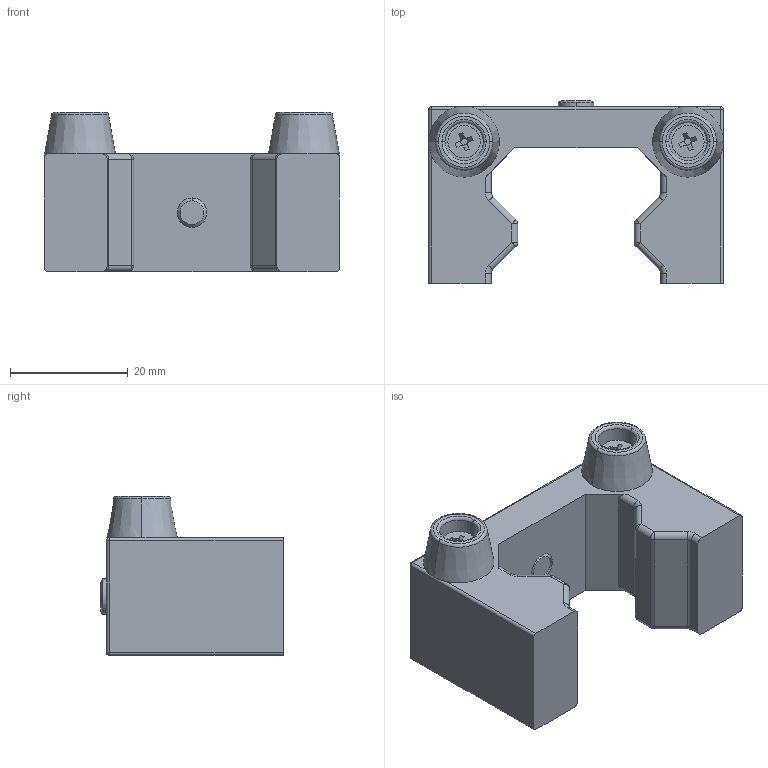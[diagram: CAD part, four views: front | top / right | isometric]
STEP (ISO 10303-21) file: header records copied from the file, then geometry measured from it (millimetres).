
FILE_DESCRIPTION (( 'STEP AP214' ), '1' );
FILE_NAME ('2.9029 HG30.STEP', '2025-09-23T07:18:25', ( '' ), ( '' ), 'SwSTEP 2.0', 'SolidWorks 2025', '' );
FILE_SCHEMA (( 'AUTOMOTIVE_DESIGN' ));
Length unit declared in the file: millimetre
Products named in the file (1): 2.9029 HG30
Bounding box: 50 x 31 x 27 mm (x, y, z)
Surface area: 7240.4 mm2 (no closed solid volume)
Topology: 0 solids, 6 shells, 201 faces, 529 edges, 338 vertices
Faces by surface type: plane 81, cylinder 44, bspline 32, torus 16, cone 16, sphere 12
Entity records: 10327 total; most frequent: CARTESIAN_POINT 3405, ORIENTED_EDGE 976, DIRECTION 921, EDGE_CURVE 525, VERTEX_POINT 338, AXIS2_PLACEMENT_3D 318, VECTOR 285, LINE 285
